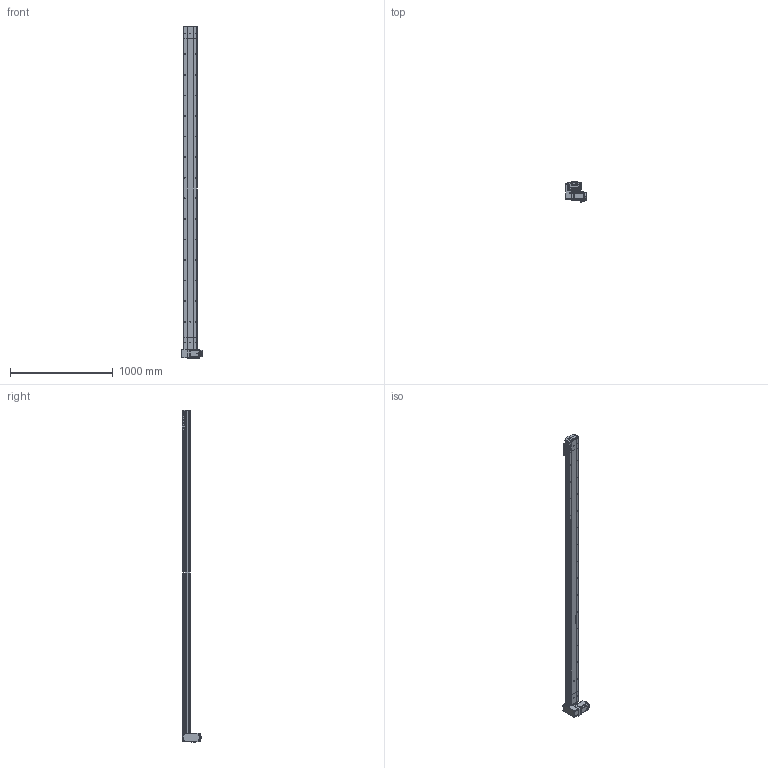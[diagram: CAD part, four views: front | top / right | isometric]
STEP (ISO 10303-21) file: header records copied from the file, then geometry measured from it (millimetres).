
FILE_DESCRIPTION (( 'STEP AP214' ), '1' );
FILE_NAME ('D14 TBH RU S2900.STEP', '2010-06-29T14:41:44', ( 'Conseil Régional Haute-Normandie' ), ( 'Conseil Régional Haute-Normandie' ), 'SwSTEP 2.0', 'SolidWorks 2010', '' );
FILE_SCHEMA (( 'AUTOMOTIVE_DESIGN' ));
Length unit declared in the file: millimetre
Products named in the file (39): couvercle D14 course L2900_Default; guide D14; Tail D14B_Default; corpl tail D14_Default; corpl 2900_Default; Chariot D14; plaque de  bout tail D14_Default; tete d''axe haut D14; vis M5 L12_Default; vis M5 L16_Default; Rail + couroie D14 Course 2900 ; Arbre+rail tail D14; couvercle D14_Default; vis M5 L8 90°_Default; Cvis M5 L70_Default; poulie tail_Default; Couroie_Default; corp head D14_Default; D14 TB H RU_Default; plaque de  bout head D14 RU_Default; Arbre+rail head D14; couvercle D14 head_Default; Moteur motionking 90BLDC100A-640; Cache_Default; Plaque racord D14_Default; Conecteur_Default; avant 90BLDC100A-640; Conecteur2_Default; codeur 90BLDC100-640; corps 90BLDC100A-640; Cache arbre_Default; renvoi RH_Default; vis M5 L5_Default; poulie head_Default; Vis M5 L16-2_Default; couroie 2_Default; chariot D14B_Default; D14 TBH RU S2900; D14 couroie L2900_Default
Assembly tree (68 placements, depth 4):
  D14 TBH RU S2900
    D14 TB H RU_Default
      Vis M5 L16-2_Default  x4
      Cache arbre_Default
      Arbre+rail head D14
      Cvis M5 L70_Default  x4
      poulie head_Default
      vis M5 L12_Default  x12
      Cache_Default  x2
      couroie 2_Default
      Moteur motionking 90BLDC100A-640
        Conecteur2_Default
        Conecteur_Default
        codeur 90BLDC100-640
        avant 90BLDC100A-640
        corps 90BLDC100A-640
      couvercle D14 head_Default
      corp head D14_Default
      Plaque racord D14_Default
      vis M5 L5_Default  x2
      plaque de  bout head D14 RU_Default
      renvoi RH_Default
    chariot D14B_Default
      vis M5 L12_Default  x4
      guide D14  x2
      Chariot D14
    D14 couroie L2900_Default
      corpl 2900_Default
      Rail + couroie D14 Course 2900 
      couvercle D14 course L2900_Default
    Tail D14B_Default
      tete d''axe haut D14
      Couroie_Default
      corpl tail D14_Default
      vis M5 L8 90°_Default  x2
      plaque de  bout tail D14_Default
      vis M5 L12_Default  x4
      couvercle D14_Default
      vis M5 L16_Default  x2
      poulie tail_Default
      Arbre+rail tail D14
Bounding box: 207.2 x 191.1 x 3225.75 mm (x, y, z)
Volume: 11858253.3 mm3; surface area: 4333119.9 mm2
Topology: 92 solids, 92 shells, 2757 faces, 6719 edges, 4338 vertices
Faces by surface type: plane 1621, cylinder 823, bspline 136, torus 89, cone 84, sphere 4
Entity records: 82916 total; most frequent: CARTESIAN_POINT 24153, ORIENTED_EDGE 10298, DIRECTION 10232, EDGE_CURVE 5149, AXIS2_PLACEMENT_3D 3431, VERTEX_POINT 3388, VECTOR 3370, LINE 3370
